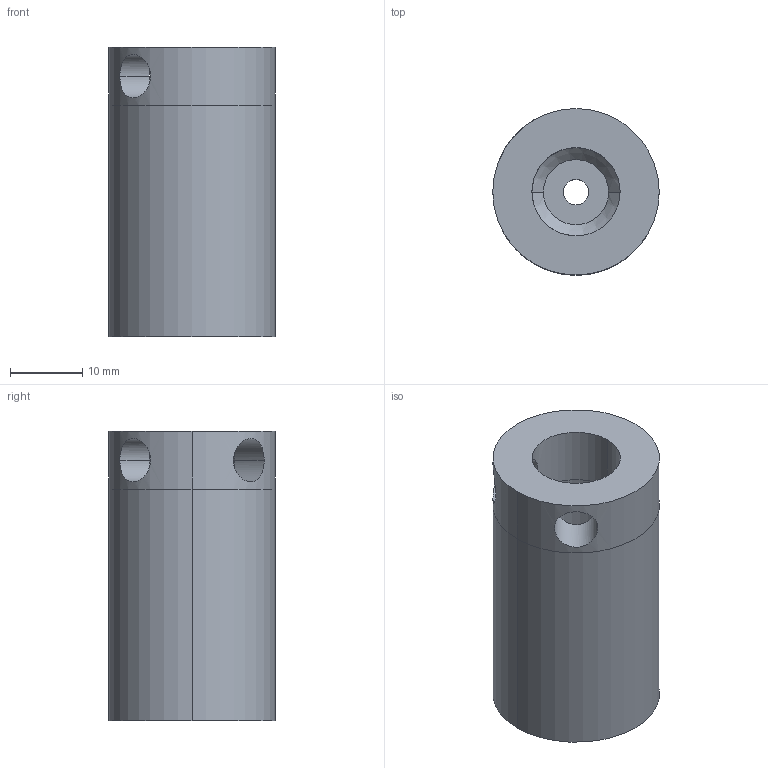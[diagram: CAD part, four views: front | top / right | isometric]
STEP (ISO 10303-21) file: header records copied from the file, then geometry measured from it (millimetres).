
FILE_DESCRIPTION(/* description */ (''),/* implementation_level */ '2;1');
FILE_NAME(/* name */ '3d_usn13-40_06262_r00.stp',/* time_stamp */ '2011-01-10T14:08:53+09:00',/* author */ ('MISUMI'),/* organization */ (''),/* preprocessor_version */ 'ST-DEVELOPER v11',/* originating_system */ 'UGS - NX 5.0',/* authorisation */ '');
FILE_SCHEMA (('CONFIG_CONTROL_DESIGN'));
Length unit declared in the file: millimetre
Products named in the file (1): 3d_usn13-40_06262_r00
Bounding box: 23 x 23 x 40 mm (x, y, z)
Volume: 11937.8 mm3; surface area: 5210.3 mm2
Topology: 1 solids, 1 shells, 20 faces, 44 edges, 28 vertices
Faces by surface type: cylinder 14, plane 4, cone 2
Entity records: 878 total; most frequent: CARTESIAN_POINT 333, DIRECTION 98, ORIENTED_EDGE 88, EDGE_CURVE 44, AXIS2_PLACEMENT_3D 41, EDGE_LOOP 28, VERTEX_POINT 28, ADVANCED_FACE 20
